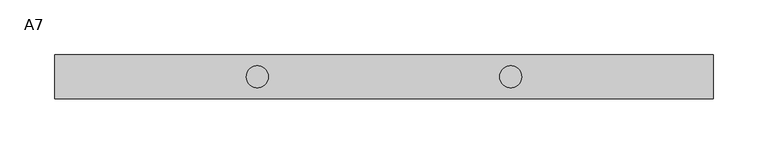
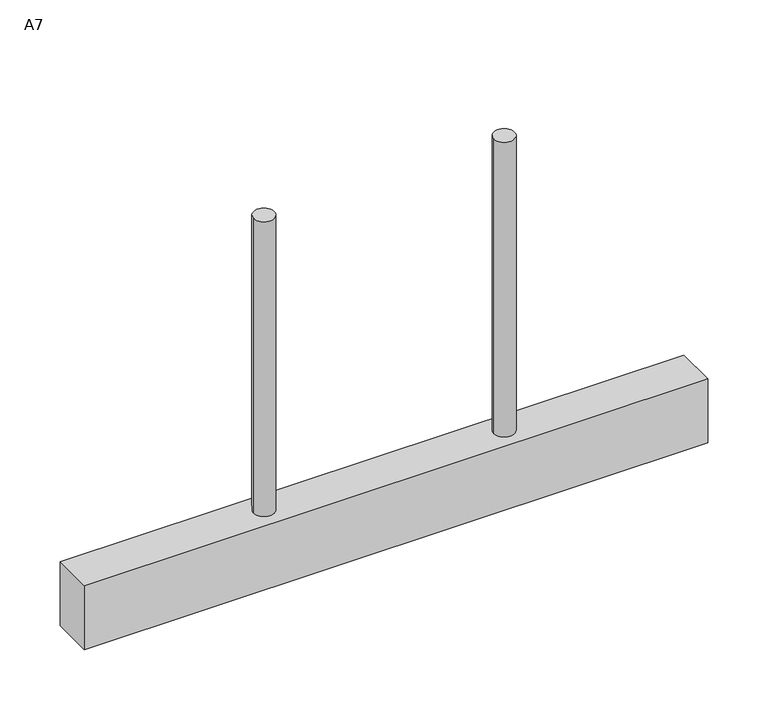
"""IFC4 building model written with IfcOpenShell, lengths in millimetres: light fixture geometry, AI_Luminaire_Linéaire avec suspente : A7."""

from ifc_helpers import new_model, si_unit, point, frame, frame_2d, origin, origin_with_axes, place, context, project, spatial, polyline, circle_curve, trimmed, segment, composite_curve, outline, extrude, source, transform, mapped, element, save


def a7_136c5a55(model_context):
    return source(origin(), model_context, "Body", "SweptSolid", [
        extrude(outline(polyline([(300.0, 20.0), (300.0, -20.0), (-300.0, -20.0), (-300.0, 20.0), (300.0, 20.0)])), frame((0.0, 0.0, -65.0), z_axis=(0.0, 0.0, 1.0), x_axis=(1.0, 0.0, 0.0)), (0.0, 0.0, 1.0), 65.0),
        extrude(outline(composite_curve([segment(trimmed(circle_curve(frame_2d((-115.4727511, 0.0)), 10.0), [point((-125.4727511, 0.0))], [point((-105.4727511, 0.0))], False, "CARTESIAN"), True, "CONTINUOUS"), segment(trimmed(circle_curve(frame_2d((-115.4727511, 0.0)), 10.0), [point((-105.4727511, 0.0))], [point((-125.4727511, 0.0))], False, "CARTESIAN"), True, "CONTINUOUS")], self_intersect=False)), origin_with_axes(), (0.0, 0.0, 1.0), 300.0),
        extrude(outline(composite_curve([segment(trimmed(circle_curve(frame_2d((115.4727511, 0.0)), 10.0), [point((105.4727511, 0.0))], [point((125.4727511, 0.0))], False, "CARTESIAN"), True, "CONTINUOUS"), segment(trimmed(circle_curve(frame_2d((115.4727511, 0.0)), 10.0), [point((125.4727511, 0.0))], [point((105.4727511, 0.0))], False, "CARTESIAN"), True, "CONTINUOUS")], self_intersect=False)), origin_with_axes(), (0.0, 0.0, 1.0), 300.0),
    ])


if __name__ == "__main__":
    model = new_model("IFC4")
    model_context = context("Model", 3, world=origin())
    ifc_project = project(units=[si_unit("LENGTHUNIT", "METRE", prefix="MILLI")], contexts=[model_context])
    site = spatial("IfcSite", under=ifc_project)
    building = spatial("IfcBuilding", under=site)
    placement = place(None, origin())
    a7_shape = a7_136c5a55(model_context)
    element("IfcLightFixture", 1, ObjectType="AI_Luminaire_Linéaire avec suspente : A7", at=placement, inside=building, context=model_context, shape_type="MappedRepresentation", body=[
        mapped(a7_shape, transform((0.0, 0.0, 0.0), x_axis=(1.0, 0.0, 0.0), y_axis=(0.0, 1.0, 0.0), z_axis=(0.0, 0.0, 1.0))),
    ])
    save(model, "model.ifc")
